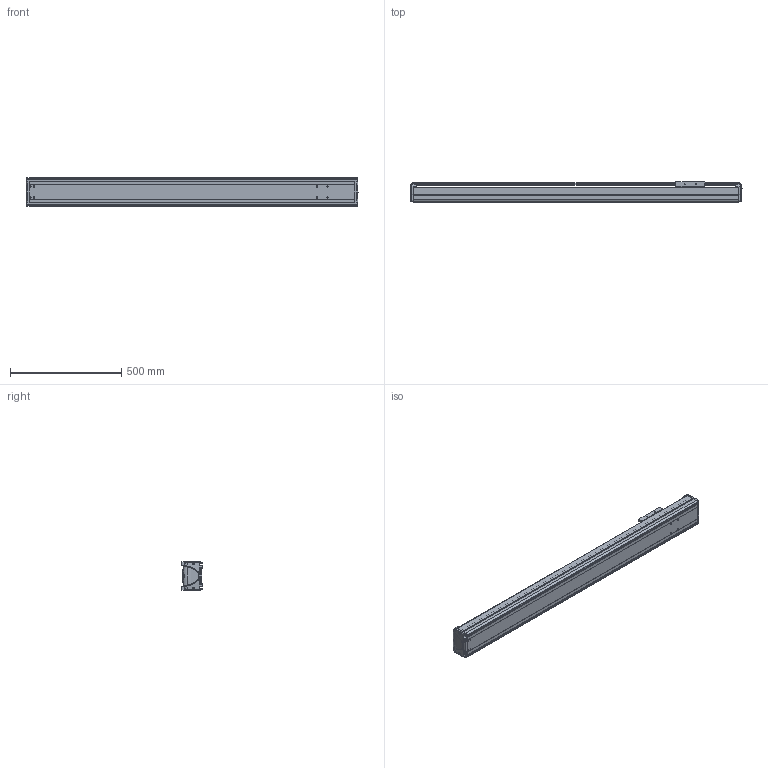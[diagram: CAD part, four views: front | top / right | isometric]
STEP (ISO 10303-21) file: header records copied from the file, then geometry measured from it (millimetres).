
FILE_DESCRIPTION((''),'2;1');
FILE_NAME('BE30E-ST-M_N-B5_IGS_PRT','2017-06-17T',(' '),(''),'PRO/ENGINEER BY PARAMETRIC TECHNOLOGY CORPORATION, 2015030','PRO/ENGINEER BY PARAMETRIC TECHNOLOGY CORPORATION, 2015030','');
FILE_SCHEMA(('CONFIG_CONTROL_DESIGN'));
Length unit declared in the file: millimetre
Products named in the file (1): BE30E-ST-M_N-B5_IGS_PRT
Bounding box: 1490 x 89.8 x 130 mm (x, y, z)
Volume: 4493963.3 mm3; surface area: 1757615.9 mm2
Topology: 3 solids, 96 shells, 1404 faces, 3786 edges, 2477 vertices
Faces by surface type: cylinder 655, plane 598, bspline 55, torus 42, cone 30, sphere 24
Entity records: 47235 total; most frequent: CARTESIAN_POINT 11821, DIRECTION 7311, ORIENTED_EDGE 7162, EDGE_CURVE 3766, AXIS2_PLACEMENT_3D 2660, VERTEX_POINT 2477, VECTOR 1991, LINE 1991
